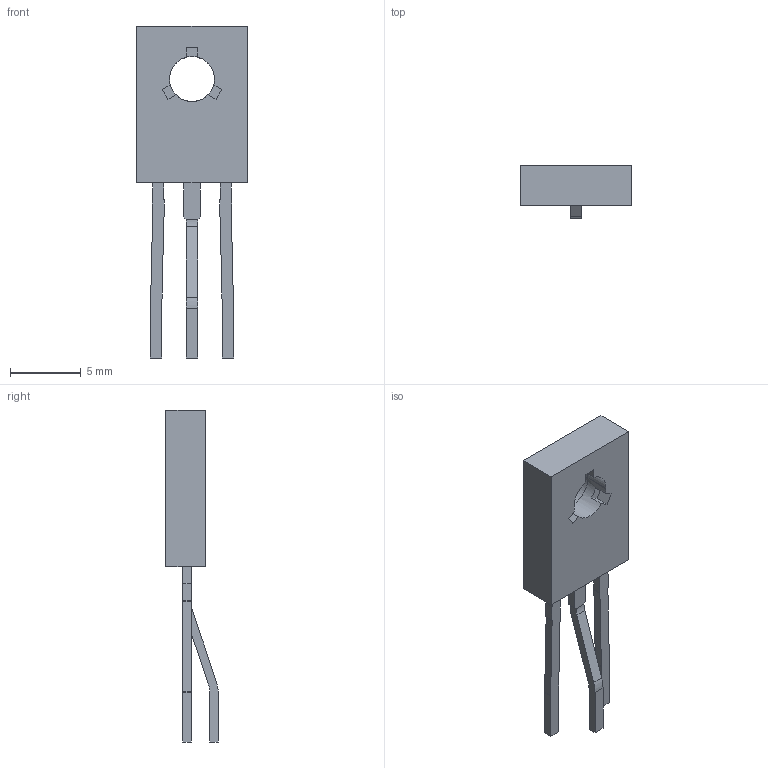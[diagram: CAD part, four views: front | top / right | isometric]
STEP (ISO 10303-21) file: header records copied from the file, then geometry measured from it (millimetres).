
FILE_DESCRIPTION(('FreeCAD Model'),'2;1');
FILE_NAME('D:/Documents/KiCAD_proj/_Kicad_User_Lib/3dmodels\User_Library_TO_126V_1_cp.step','2021-03-21T12:23:10',('kicad StepUp'),( 'ksu MCAD'),'Open CASCADE STEP processor 7.2','FreeCAD','Unknown');
FILE_SCHEMA(('AUTOMOTIVE_DESIGN { 1 0 10303 214 1 1 1 1 }'));
Length unit declared in the file: millimetre
Products named in the file (1): User_Library_TO_126V_1_cp
Bounding box: 7.8 x 3.71 x 23.5 mm (x, y, z)
Volume: 237.1 mm3; surface area: 534.4 mm2
Topology: 5 solids, 5 shells, 99 faces, 260 edges, 172 vertices
Faces by surface type: plane 75, cylinder 24
Entity records: 3742 total; most frequent: CARTESIAN_POINT 532, ORIENTED_EDGE 520, DIRECTION 514, EDGE_CURVE 260, LINE 206, VECTOR 206, VERTEX_POINT 172, AXIS2_PLACEMENT_3D 154
